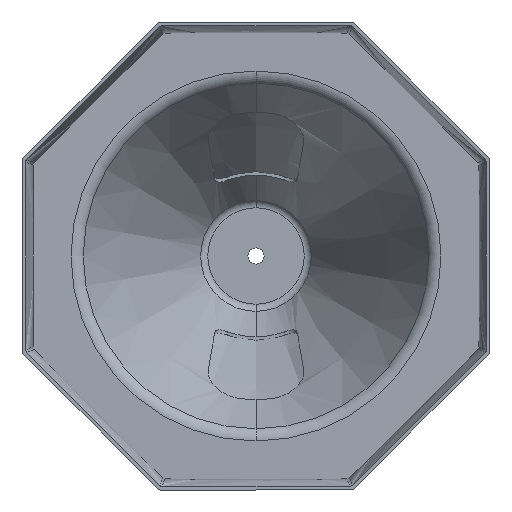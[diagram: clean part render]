
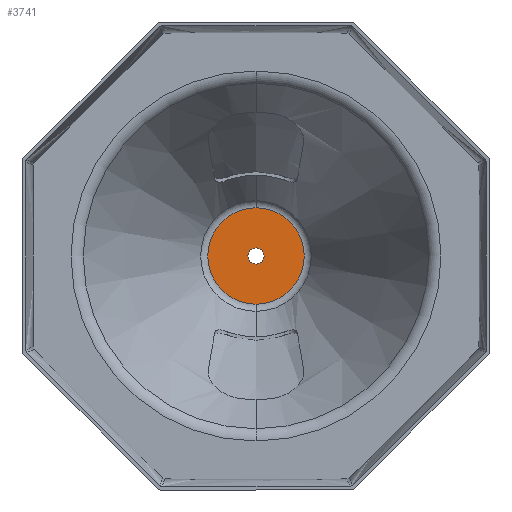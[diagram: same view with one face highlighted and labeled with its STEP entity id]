
A CAD part, front view. The second image highlights one B-rep face of the part: STEP entity #3741.
In plain terms, the highlighted planar face has unit normal (0, -1, 0).
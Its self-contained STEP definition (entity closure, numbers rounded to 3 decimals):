
#172 = EDGE_LOOP ( 'NONE', ( #4726, #1007 ) ) ;
#378 = ORIENTED_EDGE ( 'NONE', *, *, #6950, .F. ) ;
#486 = DIRECTION ( 'NONE',  ( 0., -1., 0. ) ) ;
#545 = DIRECTION ( 'NONE',  ( 0., -1., 0. ) ) ;
#575 = VERTEX_POINT ( 'NONE', #7561 ) ;
#620 = AXIS2_PLACEMENT_3D ( 'NONE', #1110, #486, #6414 ) ;
#873 = AXIS2_PLACEMENT_3D ( 'NONE', #7993, #3846, #8809 ) ;
#1007 = ORIENTED_EDGE ( 'NONE', *, *, #3166, .T. ) ;
#1110 = CARTESIAN_POINT ( 'NONE',  ( 0., 312., 0. ) ) ;
#1274 = FACE_OUTER_BOUND ( 'NONE', #172, .T. ) ;
#1287 = FACE_BOUND ( 'NONE', #1524, .T. ) ;
#1292 = EDGE_CURVE ( 'NONE', #5274, #575, #6257, .T. ) ;
#1524 = EDGE_LOOP ( 'NONE', ( #378, #4120 ) ) ;
#2617 = VERTEX_POINT ( 'NONE', #5149 ) ;
#3065 = CIRCLE ( 'NONE', #873, 11. ) ;
#3137 = DIRECTION ( 'NONE',  ( 0., 0., -1. ) ) ;
#3166 = EDGE_CURVE ( 'NONE', #575, #5274, #7744, .T. ) ;
#3657 = EDGE_CURVE ( 'NONE', #2617, #8638, #6517, .T. ) ;
#3702 = AXIS2_PLACEMENT_3D ( 'NONE', #6444, #7290, #3137 ) ;
#3741 = ADVANCED_FACE ( 'NONE', ( #1287, #1274 ), #3856, .T. ) ;
#3846 = DIRECTION ( 'NONE',  ( 0., -1., 0. ) ) ;
#3856 = PLANE ( 'NONE',  #3702 ) ;
#4120 = ORIENTED_EDGE ( 'NONE', *, *, #3657, .F. ) ;
#4150 = DIRECTION ( 'NONE',  ( 0., 0., -1. ) ) ;
#4726 = ORIENTED_EDGE ( 'NONE', *, *, #1292, .T. ) ;
#5149 = CARTESIAN_POINT ( 'NONE',  ( 0., 312., -11. ) ) ;
#5274 = VERTEX_POINT ( 'NONE', #8263 ) ;
#5523 = AXIS2_PLACEMENT_3D ( 'NONE', #6668, #545, #7474 ) ;
#6257 = CIRCLE ( 'NONE', #6369, 66.012 ) ;
#6369 = AXIS2_PLACEMENT_3D ( 'NONE', #7346, #8701, #4150 ) ;
#6414 = DIRECTION ( 'NONE',  ( 0., 0., -1. ) ) ;
#6444 = CARTESIAN_POINT ( 'NONE',  ( 0., 312., 0. ) ) ;
#6467 = CARTESIAN_POINT ( 'NONE',  ( 0., 312., 11. ) ) ;
#6517 = CIRCLE ( 'NONE', #5523, 11. ) ;
#6668 = CARTESIAN_POINT ( 'NONE',  ( 0., 312., 0. ) ) ;
#6950 = EDGE_CURVE ( 'NONE', #8638, #2617, #3065, .T. ) ;
#7290 = DIRECTION ( 'NONE',  ( 0., -1., 0. ) ) ;
#7346 = CARTESIAN_POINT ( 'NONE',  ( 0., 312., 0. ) ) ;
#7474 = DIRECTION ( 'NONE',  ( 0., 0., -1. ) ) ;
#7561 = CARTESIAN_POINT ( 'NONE',  ( 0., 312., 66.012 ) ) ;
#7744 = CIRCLE ( 'NONE', #620, 66.012 ) ;
#7993 = CARTESIAN_POINT ( 'NONE',  ( 0., 312., 0. ) ) ;
#8263 = CARTESIAN_POINT ( 'NONE',  ( 0., 312., -66.012 ) ) ;
#8638 = VERTEX_POINT ( 'NONE', #6467 ) ;
#8701 = DIRECTION ( 'NONE',  ( 0., -1., 0. ) ) ;
#8809 = DIRECTION ( 'NONE',  ( 0., 0., -1. ) ) ;
